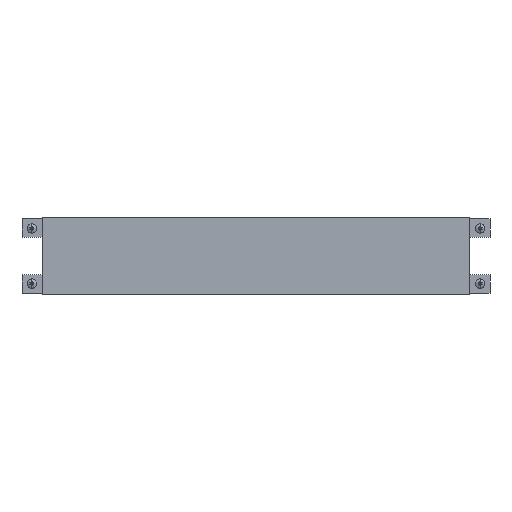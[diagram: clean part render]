
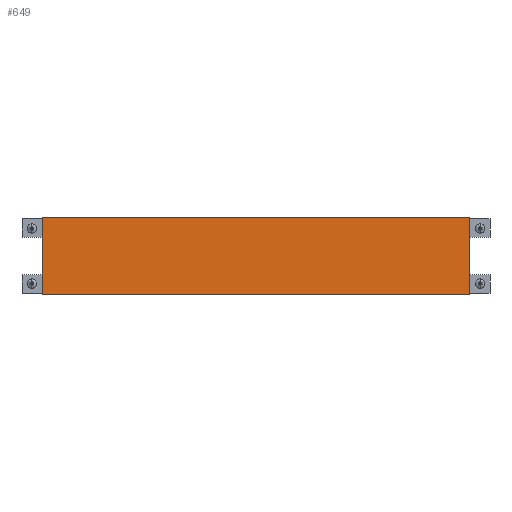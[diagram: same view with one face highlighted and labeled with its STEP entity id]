
A CAD part, top view. The second image highlights one B-rep face of the part: STEP entity #649.
In plain terms, the highlighted planar face has unit normal (0, 0, 1).
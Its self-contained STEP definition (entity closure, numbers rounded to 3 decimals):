
#328 = VERTEX_POINT('',#329);
#329 = CARTESIAN_POINT('',(216.5,-39.,0.));
#335 = EDGE_CURVE('',#328,#336,#338,.T.);
#336 = VERTEX_POINT('',#337);
#337 = CARTESIAN_POINT('',(-216.5,-39.,-0.));
#338 = LINE('',#339,#340);
#339 = CARTESIAN_POINT('',(0.,-39.,-0.));
#340 = VECTOR('',#341,1.);
#341 = DIRECTION('',(-1.,-0.,-0.));
#516 = VERTEX_POINT('',#517);
#517 = CARTESIAN_POINT('',(-216.5,39.,0.));
#523 = EDGE_CURVE('',#516,#524,#526,.T.);
#524 = VERTEX_POINT('',#525);
#525 = CARTESIAN_POINT('',(216.5,39.,0.));
#526 = LINE('',#527,#528);
#527 = CARTESIAN_POINT('',(0.,39.,0.));
#528 = VECTOR('',#529,1.);
#529 = DIRECTION('',(1.,-0.,-0.));
#649 = ADVANCED_FACE('',(#650),#698,.F.);
#650 = FACE_BOUND('',#651,.T.);
#651 = EDGE_LOOP('',(#652,#662,#668,#669,#677,#685,#691,#692));
#652 = ORIENTED_EDGE('',*,*,#653,.T.);
#653 = EDGE_CURVE('',#654,#656,#658,.T.);
#654 = VERTEX_POINT('',#655);
#655 = CARTESIAN_POINT('',(-216.5,36.4,0.));
#656 = VERTEX_POINT('',#657);
#657 = CARTESIAN_POINT('',(-216.5,-36.4,0.));
#658 = LINE('',#659,#660);
#659 = CARTESIAN_POINT('',(-216.5,-39.,0.));
#660 = VECTOR('',#661,1.);
#661 = DIRECTION('',(-0.,-1.,-0.));
#662 = ORIENTED_EDGE('',*,*,#663,.T.);
#663 = EDGE_CURVE('',#656,#336,#664,.T.);
#664 = LINE('',#665,#666);
#665 = CARTESIAN_POINT('',(-216.5,-36.4,0.));
#666 = VECTOR('',#667,1.);
#667 = DIRECTION('',(-0.,-1.,-0.));
#668 = ORIENTED_EDGE('',*,*,#335,.F.);
#669 = ORIENTED_EDGE('',*,*,#670,.F.);
#670 = EDGE_CURVE('',#671,#328,#673,.T.);
#671 = VERTEX_POINT('',#672);
#672 = CARTESIAN_POINT('',(216.5,-36.4,0.));
#673 = LINE('',#674,#675);
#674 = CARTESIAN_POINT('',(216.5,0.,0.));
#675 = VECTOR('',#676,1.);
#676 = DIRECTION('',(-0.,-1.,0.));
#677 = ORIENTED_EDGE('',*,*,#678,.T.);
#678 = EDGE_CURVE('',#671,#679,#681,.T.);
#679 = VERTEX_POINT('',#680);
#680 = CARTESIAN_POINT('',(216.5,36.4,0.));
#681 = LINE('',#682,#683);
#682 = CARTESIAN_POINT('',(216.5,-39.,0.));
#683 = VECTOR('',#684,1.);
#684 = DIRECTION('',(0.,1.,0.));
#685 = ORIENTED_EDGE('',*,*,#686,.T.);
#686 = EDGE_CURVE('',#679,#524,#687,.T.);
#687 = LINE('',#688,#689);
#688 = CARTESIAN_POINT('',(216.5,36.4,0.));
#689 = VECTOR('',#690,1.);
#690 = DIRECTION('',(-0.,1.,-0.));
#691 = ORIENTED_EDGE('',*,*,#523,.F.);
#692 = ORIENTED_EDGE('',*,*,#693,.F.);
#693 = EDGE_CURVE('',#654,#516,#694,.T.);
#694 = LINE('',#695,#696);
#695 = CARTESIAN_POINT('',(-216.5,0.,0.));
#696 = VECTOR('',#697,1.);
#697 = DIRECTION('',(0.,1.,0.));
#698 = PLANE('',#699);
#699 = AXIS2_PLACEMENT_3D('',#700,#701,#702);
#700 = CARTESIAN_POINT('',(0.,0.,0.));
#701 = DIRECTION('',(0.,0.,-1.));
#702 = DIRECTION('',(-1.,0.,-0.));
